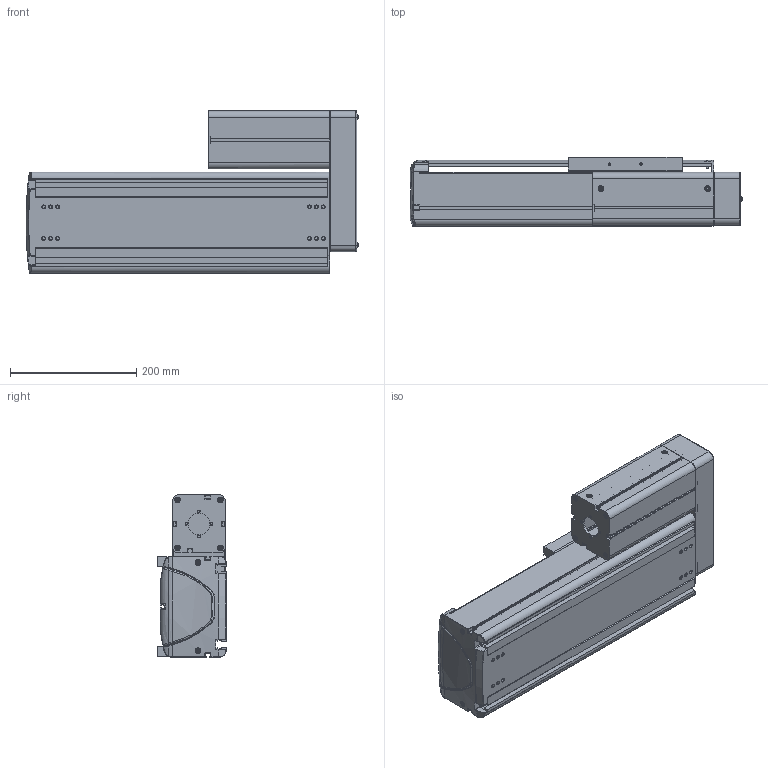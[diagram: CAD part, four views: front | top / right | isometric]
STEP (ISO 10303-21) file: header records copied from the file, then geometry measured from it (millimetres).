
FILE_DESCRIPTION((''),'2;1');
FILE_NAME('BE50F-UR-M_B-20_IGS_PRT','2017-06-18T',(' '),(''),'PRO/ENGINEER BY PARAMETRIC TECHNOLOGY CORPORATION, 2015030','PRO/ENGINEER BY PARAMETRIC TECHNOLOGY CORPORATION, 2015030','');
FILE_SCHEMA(('CONFIG_CONTROL_DESIGN'));
Length unit declared in the file: millimetre
Products named in the file (1): BE50F-UR-M_B-20_IGS_PRT
Bounding box: 525.88 x 110 x 257 mm (x, y, z)
Volume: 3016688.5 mm3; surface area: 1137550.9 mm2
Topology: 2 solids, 105 shells, 2075 faces, 5558 edges, 3612 vertices
Faces by surface type: plane 990, cylinder 835, cone 105, torus 59, bspline 54, sphere 32
Entity records: 67922 total; most frequent: CARTESIAN_POINT 15284, DIRECTION 11108, ORIENTED_EDGE 10664, EDGE_CURVE 5524, AXIS2_PLACEMENT_3D 3931, VERTEX_POINT 3612, VECTOR 3246, LINE 3246
